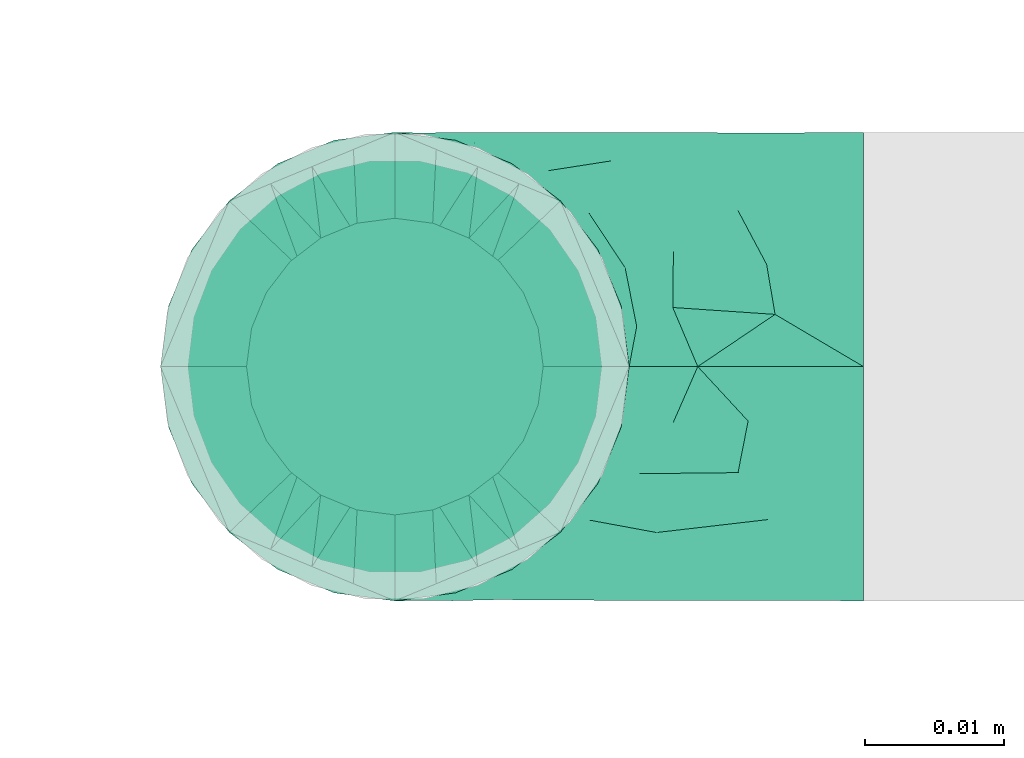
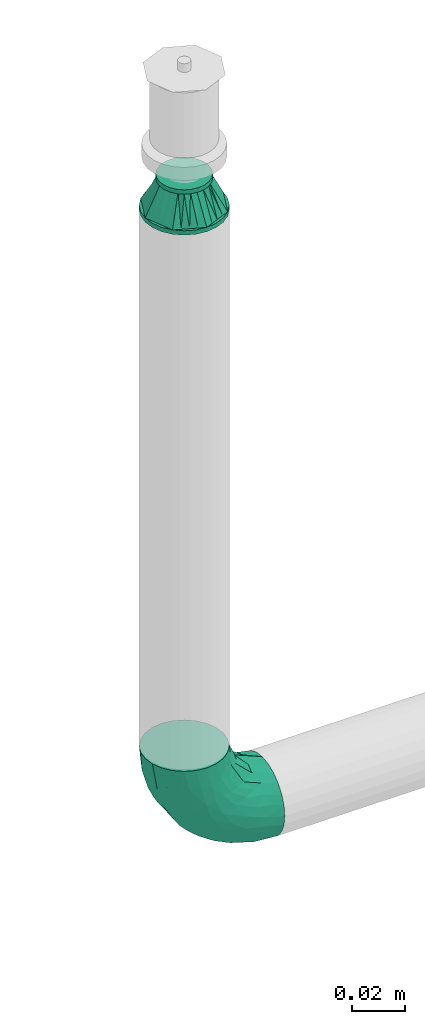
# One storey, part 95 of 157: 2 flow fittings.
"""IFC2X3 building model written with IfcOpenShell, lengths in millimetres."""

import ifcopenshell
import ifcopenshell.guid

model = None  # the IFC model being written
_history = None  # IfcOwnerHistory: only IFC2X3 demands one
_inside = {}  # id of a spatial element -> (the spatial element, [elements in it])
_under = {}  # id of a project, library or spatial element -> (it, [spatial elements below it])
_declared = {}  # id of a project -> (the project, [libraries it declares])
_typed = {}  # id of a type object -> (the type object, [elements of that type])
_made_of = {}  # id of a material, layer set ... -> (it, [elements and type objects made of it])


def new_model(schema):
    """Start an empty IFC model of exactly this schema.

    Asked for "IFC4X3", IfcOpenShell would pick the latest addendum, in which some entities
    have other attributes; the version numbers below select the first issue.
    IFC2X3 requires an IfcOwnerHistory on every rooted entity: one is made here for all.
    """
    global model, _history
    if schema == "IFC4X3":
        model = ifcopenshell.file(schema_version=(4, 3, 0, 0))
    else:
        model = ifcopenshell.file(schema=schema)
    _inside.clear()
    _under.clear()
    _declared.clear()
    _typed.clear()
    _made_of.clear()
    _history = None
    if model.schema == "IFC2X3":
        org = make("IfcOrganization", Name="unknown")
        user = make(
            "IfcPersonAndOrganization",
            ThePerson=make("IfcPerson", FamilyName="unknown"),
            TheOrganization=org,
        )
        app = make(
            "IfcApplication",
            ApplicationDeveloper=org,
            Version="unknown",
            ApplicationFullName="unknown",
            ApplicationIdentifier="unknown",
        )
        _history = make(
            "IfcOwnerHistory",
            OwningUser=user,
            OwningApplication=app,
            ChangeAction="ADDED",
            CreationDate=0,
        )
    return model


def make(cls, **values):
    """One entity of the class cls with the attributes given. An attribute that is None is left unset."""
    return model.create_entity(
        cls, **{name: value for name, value in values.items() if value is not None}
    )


def entity(cls, *values):
    """Any entity or typed value of the class cls, its attributes in the order of the schema. None: left unset."""
    e = model.create_entity(cls)
    for i, value in enumerate(values):
        if value is not None:
            e[i] = value
    return e


def rooted(cls, **values):
    """An entity with a GlobalId (a new one), such as an element, a storey or a relation."""
    return make(cls, GlobalId=ifcopenshell.guid.new(), OwnerHistory=_history, **values)


def si_unit(unit_type, name, prefix=None):
    """IfcSIUnit, for example si_unit("LENGTHUNIT", "METRE", prefix="MILLI")."""
    return make("IfcSIUnit", UnitType=unit_type, Prefix=prefix, Name=name)


def converted_unit(unit_type, name, factor, base, dimensions=None, offset=None):
    """IfcConversionBasedUnit, such as the inch: factor (a typed value) times the base unit."""
    return make(
        "IfcConversionBasedUnit"
        if offset is None
        else "IfcConversionBasedUnitWithOffset",
        ConversionOffset=offset,
        Dimensions=None
        if dimensions is None
        else entity("IfcDimensionalExponents", *dimensions),
        UnitType=unit_type,
        Name=name,
        ConversionFactor=make(
            "IfcMeasureWithUnit", ValueComponent=factor, UnitComponent=base
        ),
    )


def derived_unit(unit_type, elements):
    """IfcDerivedUnit: a product of units, each with its exponent."""
    return make(
        "IfcDerivedUnit",
        Elements=[
            make("IfcDerivedUnitElement", Unit=unit, Exponent=power)
            for unit, power in elements
        ],
        UnitType=unit_type,
    )


def assignment(units):
    """IfcUnitAssignment: the units of a project."""
    return None if units is None else make("IfcUnitAssignment", Units=units)


def point(xyz):
    """IfcCartesianPoint."""
    return None if xyz is None else make("IfcCartesianPoint", Coordinates=xyz)


def direction(xyz):
    """IfcDirection."""
    return None if xyz is None else make("IfcDirection", DirectionRatios=xyz)


def frame(location, z_axis=None, x_axis=None):
    """IfcAxis2Placement3D, a coordinate frame: its origin and axes. An axis left out is left unset."""
    return make(
        "IfcAxis2Placement3D",
        Location=point(location),
        Axis=direction(z_axis),
        RefDirection=direction(x_axis),
    )


def origin_with_axes():
    """The frame at (0, 0, 0) with the z axis (0, 0, 1) and the x axis (1, 0, 0) written out."""
    return frame((0.0, 0.0, 0.0), z_axis=(0.0, 0.0, 1.0), x_axis=(1.0, 0.0, 0.0))


def place(relative_to, where):
    """IfcLocalPlacement: puts the frame where relative to a parent placement (None: the world)."""
    return make(
        "IfcLocalPlacement", PlacementRelTo=relative_to, RelativePlacement=where
    )


def context(
    kind, dimensions, precision=None, world=None, true_north=None, identifier=None
):
    """IfcGeometricRepresentationContext, for example the 3D "Model" context."""
    return make(
        "IfcGeometricRepresentationContext",
        ContextIdentifier=identifier,
        ContextType=kind,
        CoordinateSpaceDimension=dimensions,
        Precision=precision,
        WorldCoordinateSystem=world,
        TrueNorth=true_north,
    )


def subcontext(parent, identifier, kind, view, scale=None):
    """IfcGeometricRepresentationSubContext, for example "Body" below "Model"."""
    return make(
        "IfcGeometricRepresentationSubContext",
        ContextIdentifier=identifier,
        ContextType=kind,
        ParentContext=parent,
        TargetScale=scale,
        TargetView=view,
    )


def project(units=None, contexts=None):
    """IfcProject with its units and contexts."""
    return rooted(
        "IfcProject",
        Name="project",
        RepresentationContexts=contexts,
        UnitsInContext=assignment(units),
    )


def spatial(cls, under=None, at=None, **own):
    """A site, building, storey or space (cls), placed at a placement, below another one or the project."""
    s = rooted(cls, ObjectPlacement=at, **own)
    if under is not None:
        _under.setdefault(under.id(), (under, []))[1].append(s)
    return s


def faces_of(points, faces, orient=None, outer=None):
    """IfcFace entities. A face is a list of loops; a loop is a list of indices into points, from 0.

    orient and outer hold one flag for each loop. By default every Orientation is true, the
    first loop of a face is its IfcFaceOuterBound and the others are IfcFaceBound.
    """
    made = []
    for i, loops in enumerate(faces):
        bounds = []
        for j, loop in enumerate(loops):
            is_outer = j == 0 if outer is None else outer[i][j]
            bounds.append(
                make(
                    "IfcFaceOuterBound" if is_outer else "IfcFaceBound",
                    Bound=make("IfcPolyLoop", Polygon=[points[k] for k in loop]),
                    Orientation=True if orient is None else orient[i][j],
                )
            )
        made.append(make("IfcFace", Bounds=bounds))
    return made


def open_shell(faces, orient=None, outer=None):
    """The faces of one IfcOpenShell. surface_model builds it on its shared points."""
    return ("IfcOpenShell", faces, orient, outer)


def surface_model(cls, points, shells):
    """IfcFaceBasedSurfaceModel or IfcShellBasedSurfaceModel (cls): surfaces that need not close."""
    shared = [point(p) for p in points]
    made = [make(c, CfsFaces=faces_of(shared, fs, o, b)) for c, fs, o, b in shells]
    if cls == "IfcFaceBasedSurfaceModel":
        return make(cls, FbsmFaces=made)
    return make(cls, SbsmBoundary=made)


def shape(context_of_items, identifier, shape_type, items):
    """IfcShapeRepresentation: the items that make up one representation, for example the "Body"."""
    return make(
        "IfcShapeRepresentation",
        ContextOfItems=context_of_items,
        RepresentationIdentifier=identifier,
        RepresentationType=shape_type,
        Items=items,
    )


def source(mapping_origin, context_of_items, identifier, shape_type, items):
    """IfcRepresentationMap: a shape defined once, which mapped items show again and again."""
    return make(
        "IfcRepresentationMap",
        MappingOrigin=mapping_origin,
        MappedRepresentation=shape(context_of_items, identifier, shape_type, items),
    )


def transform(
    local_origin,
    x_axis=None,
    y_axis=None,
    z_axis=None,
    scale=None,
    scale2=None,
    scale3=None,
    uniform=True,
):
    """IfcCartesianTransformationOperator3D, or its non-uniform kind. x_axis, y_axis, z_axis: its Axis1, 2, 3."""
    if uniform:
        return make(
            "IfcCartesianTransformationOperator3D",
            Axis1=direction(x_axis),
            Axis2=direction(y_axis),
            LocalOrigin=point(local_origin),
            Scale=scale,
            Axis3=direction(z_axis),
        )
    return make(
        "IfcCartesianTransformationOperator3DnonUniform",
        Axis1=direction(x_axis),
        Axis2=direction(y_axis),
        LocalOrigin=point(local_origin),
        Scale=scale,
        Axis3=direction(z_axis),
        Scale2=scale2,
        Scale3=scale3,
    )


def mapped(mapping_source, mapping_target):
    """IfcMappedItem: shows the shape of a source again, moved by a transform."""
    return make(
        "IfcMappedItem", MappingSource=mapping_source, MappingTarget=mapping_target
    )


def made_of(thing, what):
    """Note that an element or type object is made of a material, layer set ...; save() writes the relation."""
    if what is not None:
        _made_of.setdefault(what.id(), (what, []))[1].append(thing)
    return thing


def type_object(cls, material=None, **own):
    """A type object (cls), such as IfcWallType, which elements share."""
    return made_of(rooted(cls, **own), material)


def element(
    cls,
    number,
    at=None,
    inside=None,
    cuts=None,
    type_object=None,
    material=None,
    context=None,
    identifier="Body",
    shape_type=None,
    held_by="IfcProductDefinitionShape",
    body=None,
    shapes=None,
    **own,
):
    """One element of the class cls, such as IfcWall. Its Tag is "e" and its number.

    at: its placement. inside: the storey or other place that contains it. cuts: it is an
    opening in that element (IfcRelVoidsElement). A single representation is given by context,
    identifier, shape_type and body (its items); several are given by shapes. held_by: the class
    of the entity that holds the representations. save() writes the other relations.
    """
    e = rooted(cls, Tag="e%d" % number, ObjectPlacement=at, **own)
    if body is not None:
        shapes = [shape(context, identifier, shape_type, body)]
    if shapes is not None:
        e.Representation = make(held_by, Representations=shapes)
    if inside is not None:
        _inside.setdefault(inside.id(), (inside, []))[1].append(e)
    if cuts is not None:
        rooted(
            "IfcRelVoidsElement", RelatingBuildingElement=cuts, RelatedOpeningElement=e
        )
    if type_object is not None:
        _typed.setdefault(type_object.id(), (type_object, []))[1].append(e)
    return made_of(e, material)


def aggregate(whole, parts):
    """IfcRelAggregates: a whole, such as a stair, and the parts it consists of."""
    return rooted("IfcRelAggregates", RelatingObject=whole, RelatedObjects=parts)


def save(model, path):
    """Write the relations noted so far, then the file.

    IfcRelAggregates (storeys below a building ...), IfcRelContainedInSpatialStructure (elements
    in a storey), IfcRelDefinesByType, IfcRelAssociatesMaterial and IfcRelDeclares: one each for
    every whole, place, type object, material and project.
    """
    for whole, parts in _under.values():
        aggregate(whole, parts)
    for where, things in _inside.values():
        rooted(
            "IfcRelContainedInSpatialStructure",
            RelatedElements=things,
            RelatingStructure=where,
        )
    for kind, things in _typed.values():
        rooted("IfcRelDefinesByType", RelatedObjects=things, RelatingType=kind)
    for what, things in _made_of.values():
        rooted("IfcRelAssociatesMaterial", RelatedObjects=things, RelatingMaterial=what)
    for by, libraries in _declared.values():
        rooted("IfcRelDeclares", RelatingContext=by, RelatedDefinitions=libraries)
    model.write(path)


model = new_model("IFC2X3")

# Units and contexts
model_context = context("Model", 3, precision=0.01, world=frame((0.0, 4.29681676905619e-09, 0.0)), true_north=direction((4.01073788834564e-13, 1.0)))
plan_context = context("Plan", 3, precision=0.01, world=frame((0.0, 4.29681676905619e-09, 0.0)), true_north=direction((4.01073788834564e-13, 1.0)))
body_context = subcontext(model_context, "Body", "Model", "MODEL_VIEW")
ifc_project = project(units=[converted_unit("PLANEANGLEUNIT", "DEGREE", entity("IfcPositiveLengthMeasure", 0.0174532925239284), si_unit("PLANEANGLEUNIT", "RADIAN"), dimensions=[0, 0, 0, 0, 0, 0, 0]), si_unit("AREAUNIT", "SQUARE_METRE"), si_unit("LENGTHUNIT", "METRE", prefix="MILLI"), si_unit("MASSUNIT", "GRAM", prefix="KILO"), si_unit("POWERUNIT", "WATT"), si_unit("PRESSUREUNIT", "PASCAL"), si_unit("FORCEUNIT", "NEWTON", prefix="KILO"), si_unit("ELECTRICCURRENTUNIT", "AMPERE"), si_unit("THERMODYNAMICTEMPERATUREUNIT", "DEGREE_CELSIUS"), si_unit("TIMEUNIT", "SECOND"), si_unit("VOLUMEUNIT", "CUBIC_METRE"), derived_unit("LINEARVELOCITYUNIT", [(si_unit("LENGTHUNIT", "METRE"), 1), (si_unit("TIMEUNIT", "SECOND"), -1)]), derived_unit("VOLUMETRICFLOWRATEUNIT", [(si_unit("VOLUMEUNIT", "CUBIC_METRE"), 1), (si_unit("TIMEUNIT", "SECOND"), -1)]), derived_unit("THERMALTRANSMITTANCEUNIT", [(si_unit("POWERUNIT", "WATT"), 1), (si_unit("THERMODYNAMICTEMPERATUREUNIT", "KELVIN"), -1), (si_unit("AREAUNIT", "SQUARE_METRE"), -1)])], contexts=[model_context, plan_context])

# Site, building, storey
site_placement = place(None, frame((0.0, -4.29681676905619e-09, 0.0), z_axis=(0.0, 0.0, 1.0), x_axis=(1.0, 0.0, 0.0)))
site = spatial("IfcSite", under=ifc_project, at=site_placement, CompositionType="ELEMENT")
building_placement = place(site_placement, frame((0.0, 4.29681676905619e-09, 0.0), z_axis=(0.0, 0.0, 1.0), x_axis=(1.0, 0.0, 0.0)))
building = spatial("IfcBuilding", under=site, at=building_placement, Name="mc-building", CompositionType="ELEMENT")
storey_placement = place(building_placement, frame((0.0, 0.0, 204000.0), z_axis=(0.0, 0.0, 1.0), x_axis=(1.0, 0.0, 0.0)))
storey = spatial("IfcBuildingStorey", under=building, at=storey_placement, Name="Nivå D", CompositionType="ELEMENT", Elevation=204000.0)

# Flow fittings
pipe_fitting_type_1 = type_object("IfcPipeFittingType", Name="magi_pipe_fe_reducer_centric_short_NOR", PredefinedType="TRANSITION")
shared_shape_1 = source(origin_with_axes(), body_context, "Body", "SurfaceModel", [
    surface_model("IfcShellBasedSurfaceModel", [(14.4, 5.35, -9.26647), (14.4, 0.0, -10.7), (14.4, 2.76936, -10.33541), (14.4, 10.33541, -2.76936), (14.4, 7.56604, -7.56604), (14.4, -10.33541, -2.76936), (14.4, 9.26647, -5.35), (14.4, 0.0, 10.7), (14.4, -5.35, -9.26647), (14.4, -2.76936, -10.33541), (14.4, -7.56604, -7.56604), (14.4, -9.26647, -5.35), (14.4, 10.7, 0.0), (14.4, 10.33541, 2.76936), (14.4, 9.26647, 5.35), (14.4, 7.56604, 7.56604), (14.4, 2.76936, 10.33541), (14.4, 5.35, 9.26647), (14.4, -10.33541, 2.76936), (14.4, -7.56604, 7.56604), (14.4, -9.26647, 5.35), (14.4, -10.7, 0.0), (14.4, -2.76936, 10.33541), (14.4, -5.35, 9.26647), (12.4, 2.76936, 10.33541), (12.4, -10.33541, -2.76936), (12.4, 0.0, 10.7), (12.4, 5.35, 9.26647), (12.4, 7.56604, 7.56604), (12.4, 9.26647, 5.35), (12.4, 10.33541, 2.76936), (12.4, -10.33541, 2.76936), (12.4, -2.76936, 10.33541), (12.4, -7.56604, 7.56604), (12.4, -5.35, 9.26647), (12.4, -9.26647, 5.35), (12.4, -10.7, 0.0), (12.4, 10.33541, -2.76936), (12.4, 5.35, -9.26647), (12.4, 9.26647, -5.35), (12.4, 7.56604, -7.56604), (12.4, 2.76936, -10.33541), (12.4, -9.26647, -5.35), (12.4, -5.35, -9.26647), (12.4, -7.56604, -7.56604), (12.4, 0.0, -10.7), (12.4, -2.76936, -10.33541), (12.4, 10.7, 0.0), (-2.0, 11.9501, 11.9501), (-2.0, 0.0, 16.9), (-2.0, 4.37404, 16.32415), (-2.0, 8.45, 14.63583), (-2.0, 14.63583, 8.45), (-2.0, 16.32415, 4.37404), (-2.0, -16.32415, 4.37404), (-2.0, -8.45, 14.63583), (-2.0, -14.63583, 8.45), (-2.0, -11.9501, 11.9501), (-2.0, -4.37404, 16.32415), (-2.0, -16.32415, -4.37404), (-2.0, -16.9, 0.0), (-2.0, -8.45, -14.63583), (-2.0, 16.32415, -4.37404), (-2.0, 11.9501, -11.9501), (-2.0, 14.63583, -8.45), (-2.0, 8.45, -14.63583), (-2.0, 4.37404, -16.32415), (-2.0, 0.0, -16.9), (-2.0, -11.9501, -11.9501), (-2.0, -14.63583, -8.45), (-2.0, -4.37404, -16.32415), (-2.0, 16.9, 0.0), (0.0, 4.37404, -16.32415), (0.0, 8.45, -14.63583), (0.0, 11.9501, -11.9501), (0.0, 0.0, -16.9), (0.0, 16.32415, -4.37404), (0.0, 16.32415, 4.37404), (0.0, 14.63583, -8.45), (0.0, -8.45, -14.63583), (0.0, -4.37404, -16.32415), (0.0, -11.9501, -11.9501), (0.0, -16.32415, -4.37404), (0.0, -14.63583, -8.45), (0.0, -16.32415, 4.37404), (0.0, 16.9, 0.0), (0.0, 14.63583, 8.45), (0.0, 11.9501, 11.9501), (0.0, 4.37404, 16.32415), (0.0, 8.45, 14.63583), (0.0, 0.0, 16.9), (0.0, -14.63583, 8.45), (0.0, -16.9, 0.0), (0.0, -8.45, 14.63583), (0.0, -11.9501, 11.9501), (0.0, -4.37404, 16.32415), (12.4, 9.3625, -2.31662), (0.0, 14.42505, -5.97505), (0.0, 15.66253, -2.98753), (12.4, -6.6875, -6.94985), (0.0, -13.18758, -8.96258), (0.0, 2.98753, -15.66253), (12.4, 0.0, -9.26647), (12.4, 6.6875, -6.94985), (0.0, 8.96258, -13.18758), (12.4, -9.3625, -2.31662), (0.0, -15.66253, -2.98753), (0.0, -14.42505, -5.97505), (0.0, 5.97505, -14.42505), (0.0, -2.98753, -15.66253), (0.0, -8.96258, -13.18758), (0.0, 13.18758, -8.96258), (12.4, 8.025, -4.63324), (12.4, -2.675, -9.26647), (12.4, 2.675, -9.26647), (0.0, -5.97505, -14.42505), (12.4, -8.025, -4.63324), (12.4, -9.3625, 2.31662), (0.0, -14.42505, 5.97505), (0.0, -15.66253, 2.98753), (12.4, 6.6875, 6.94985), (0.0, 13.18758, 8.96258), (0.0, -2.98753, 15.66253), (12.4, 0.0, 9.26647), (12.4, -6.6875, 6.94985), (0.0, -8.96258, 13.18758), (12.4, 9.3625, 2.31662), (0.0, 15.66253, 2.98753), (0.0, 14.42505, 5.97505), (0.0, -5.97505, 14.42505), (0.0, 2.98753, 15.66253), (0.0, 8.96258, 13.18758), (0.0, -13.18758, 8.96258), (12.4, -8.025, 4.63324), (12.4, 2.675, 9.26647), (12.4, -2.675, 9.26647), (0.0, 5.97505, 14.42505), (12.4, 8.025, 4.63324)], [open_shell([[[0, 1, 2]], [[3, 0, 4]], [[5, 0, 3]], [[3, 4, 6]], [[7, 5, 3]], [[1, 8, 9]], [[1, 0, 8]], [[10, 5, 11]], [[5, 10, 8]], [[0, 5, 8]], [[3, 12, 13]], [[13, 14, 15]], [[13, 15, 16]], [[7, 3, 16]], [[16, 15, 17]], [[7, 18, 5]], [[18, 19, 20]], [[21, 5, 18]], [[19, 22, 23]], [[22, 19, 18]], [[7, 22, 18]], [[13, 16, 3]], [[24, 25, 26]], [[27, 25, 24]], [[28, 29, 30]], [[28, 25, 27]], [[31, 26, 25]], [[32, 33, 34]], [[33, 32, 31]], [[33, 31, 35]], [[32, 26, 31]], [[31, 25, 36]], [[30, 37, 28]], [[25, 28, 37]], [[38, 37, 39]], [[37, 38, 25]], [[38, 39, 40]], [[41, 25, 38]], [[42, 43, 44]], [[43, 42, 25]], [[43, 45, 46]], [[43, 25, 41]], [[41, 45, 43]], [[37, 30, 47]], [[25, 5, 36]], [[42, 11, 25]], [[8, 44, 43]], [[42, 44, 10]], [[9, 43, 46]], [[25, 11, 5]], [[5, 21, 36]], [[9, 8, 43]], [[10, 44, 8]], [[10, 11, 42]], [[1, 9, 46]], [[46, 45, 1]], [[41, 2, 45]], [[38, 0, 41]], [[6, 40, 39]], [[38, 40, 4]], [[3, 39, 37]], [[38, 4, 0]], [[0, 2, 41]], [[12, 3, 37]], [[6, 39, 3]], [[6, 4, 40]], [[47, 12, 37]], [[45, 2, 1]], [[30, 13, 47]], [[29, 14, 30]], [[17, 28, 27]], [[29, 28, 15]], [[16, 27, 24]], [[30, 14, 13]], [[13, 12, 47]], [[16, 17, 27]], [[15, 28, 17]], [[15, 14, 29]], [[7, 16, 24]], [[24, 26, 7]], [[32, 22, 26]], [[34, 23, 32]], [[20, 33, 35]], [[34, 33, 19]], [[18, 35, 31]], [[34, 19, 23]], [[23, 22, 32]], [[21, 18, 31]], [[20, 35, 18]], [[20, 19, 33]], [[36, 21, 31]], [[26, 22, 7]], [[48, 49, 50]], [[48, 50, 51]], [[48, 52, 53]], [[48, 53, 49]], [[49, 53, 54]], [[55, 56, 57]], [[55, 58, 49]], [[56, 55, 49]], [[49, 54, 56]], [[54, 59, 60]], [[54, 53, 61]], [[53, 62, 63]], [[63, 62, 64]], [[63, 65, 66]], [[61, 53, 63]], [[67, 63, 66]], [[59, 68, 69]], [[68, 59, 61]], [[61, 67, 70]], [[59, 54, 61]], [[63, 67, 61]], [[53, 71, 62]], [[72, 73, 74]], [[75, 72, 74]], [[74, 76, 77]], [[76, 74, 78]], [[74, 77, 79]], [[75, 79, 80]], [[75, 74, 79]], [[81, 82, 83]], [[82, 81, 79]], [[79, 84, 82]], [[77, 76, 85]], [[77, 86, 87]], [[77, 87, 88]], [[88, 84, 79]], [[88, 87, 89]], [[84, 88, 90]], [[90, 91, 84]], [[92, 82, 84]], [[91, 93, 94]], [[91, 90, 93]], [[93, 90, 95]], [[79, 77, 88]], [[59, 82, 60]], [[69, 83, 59]], [[79, 68, 61]], [[69, 68, 81]], [[80, 61, 70]], [[59, 83, 82]], [[82, 92, 60]], [[80, 79, 61]], [[81, 68, 79]], [[81, 83, 69]], [[75, 80, 70]], [[70, 67, 75]], [[66, 72, 67]], [[65, 73, 66]], [[78, 63, 64]], [[65, 63, 74]], [[76, 64, 62]], [[65, 74, 73]], [[73, 72, 66]], [[85, 76, 62]], [[78, 64, 76]], [[78, 74, 63]], [[71, 85, 62]], [[67, 72, 75]], [[53, 77, 71]], [[52, 86, 53]], [[89, 48, 51]], [[52, 48, 87]], [[88, 51, 50]], [[53, 86, 77]], [[77, 85, 71]], [[88, 89, 51]], [[87, 48, 89]], [[87, 86, 52]], [[90, 88, 50]], [[50, 49, 90]], [[58, 95, 49]], [[55, 93, 58]], [[91, 57, 56]], [[55, 57, 94]], [[84, 56, 54]], [[55, 94, 93]], [[93, 95, 58]], [[92, 84, 54]], [[91, 56, 84]], [[91, 94, 57]], [[60, 92, 54]], [[49, 95, 90]], [[27, 34, 47]], [[47, 34, 43]], [[43, 38, 47]], [[43, 34, 36]], [[90, 87, 94]], [[92, 94, 87]], [[87, 74, 92]], [[75, 92, 74]], [[81, 92, 75]], [[74, 87, 85]], [[96, 97, 98]], [[81, 99, 100]], [[101, 102, 75]], [[98, 85, 47]], [[74, 103, 104]], [[104, 103, 38]], [[105, 106, 107]], [[38, 108, 104]], [[102, 109, 75]], [[110, 99, 81]], [[47, 96, 98]], [[103, 111, 112]], [[109, 102, 113]], [[36, 92, 106]], [[102, 101, 114]], [[110, 115, 43]], [[96, 112, 97]], [[107, 116, 105]], [[36, 106, 105]], [[113, 115, 109]], [[43, 115, 113]], [[116, 107, 100]], [[108, 38, 114]], [[111, 103, 74]], [[111, 97, 112]], [[99, 110, 43]], [[116, 100, 99]], [[101, 108, 114]], [[117, 118, 119]], [[87, 120, 121]], [[122, 123, 90]], [[119, 92, 36]], [[94, 124, 125]], [[125, 124, 34]], [[126, 127, 128]], [[34, 129, 125]], [[123, 130, 90]], [[131, 120, 87]], [[36, 117, 119]], [[124, 132, 133]], [[130, 123, 134]], [[47, 85, 127]], [[123, 122, 135]], [[131, 136, 27]], [[117, 133, 118]], [[128, 137, 126]], [[47, 127, 126]], [[134, 136, 130]], [[27, 136, 134]], [[137, 128, 121]], [[129, 34, 135]], [[132, 124, 94]], [[132, 118, 133]], [[120, 131, 27]], [[137, 121, 120]], [[122, 129, 135]]])]),
])
flow_fitting_1_placement = place(storey_placement, frame((527240.35, 410800.0, 3161.14799999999), z_axis=(0.0, -1.0, 0.0), x_axis=(0.0, 0.0, 1.0)))
element("IfcFlowFitting", 1, at=flow_fitting_1_placement, inside=storey, type_object=pipe_fitting_type_1, Name="magi_pipe_fe_reducer_centric_short_NOR", context=body_context, shape_type="MappedRepresentation", body=[
    mapped(shared_shape_1, transform((0.0, 0.0, 0.0), scale=1.0)),
])
pipe_fitting_type_2 = type_object("IfcPipeFittingType", Name="magi_pipe_fe_elbow_short_001", PredefinedType="BEND")
shared_shape_2 = source(origin_with_axes(), body_context, "Body", "SurfaceModel", [
    surface_model("IfcShellBasedSurfaceModel", [(-33.8, 8.45, -14.63583), (-33.8, 4.37404, -16.32415), (-33.8, 11.9501, -11.9501), (-33.8, -11.9501, -11.9501), (-33.8, -14.63583, -8.45), (-33.8, -8.45, -14.63583), (-33.8, 0.0, -16.9), (-33.8, -4.37404, -16.32415), (-33.8, -4.37404, 16.32415), (-33.8, 0.0, 16.9), (-33.8, -8.45, 14.63583), (-33.8, 16.32415, -4.37404), (-33.8, 14.63583, -8.45), (-33.8, -16.32415, -4.37404), (-33.8, -16.9, 0.0), (-33.8, -16.32415, 4.37404), (-33.8, 11.9501, 11.9501), (-33.8, 14.63583, 8.45), (-33.8, 16.32415, 4.37404), (-33.8, 4.37404, 16.32415), (-33.8, 8.45, 14.63583), (-33.8, -14.63583, 8.45), (-33.8, -11.9501, 11.9501), (-33.8, 16.9, 0.0), (-11.9501, 33.8, -11.9501), (0.0, 33.8, -16.9), (-4.37404, 33.8, -16.32415), (-8.45, 33.8, -14.63583), (-14.63583, 33.8, -8.45), (-16.32415, 33.8, -4.37404), (14.63583, 33.8, -8.45), (8.45, 33.8, 14.63583), (16.32415, 33.8, -4.37404), (8.45, 33.8, -14.63583), (11.9501, 33.8, -11.9501), (4.37404, 33.8, -16.32415), (16.32415, 33.8, 4.37404), (16.9, 33.8, 0.0), (-11.9501, 33.8, 11.9501), (-16.32415, 33.8, 4.37404), (-14.63583, 33.8, 8.45), (-8.45, 33.8, 14.63583), (-4.37404, 33.8, 16.32415), (11.9501, 33.8, 11.9501), (14.63583, 33.8, 8.45), (0.0, 33.8, 16.9), (4.37404, 33.8, 16.32415), (-16.9, 33.8, 0.0), (-24.79389, -13.12945, 9.48721), (-22.19287, -9.75018, 12.59315), (-24.09897, -14.97035, 0.0), (-14.93934, -10.76256, 8.5297), (-22.46095, -14.75051, 5.27077), (14.75051, 22.46094, 5.27077), (11.9251, 13.23888, 4.33236), (13.04069, 14.39795, 0.0), (7.71387, 13.68847, 11.55891), (9.75018, 22.19287, 12.59315), (4.10169, 13.0571, 14.04018), (-24.84007, -6.39063, 15.2048), (-25.81779, -2.23879, 16.61097), (-23.66549, 2.59054, 16.87119), (-26.50418, 14.06512, 11.08152), (-24.21253, 17.66365, 7.72657), (-29.58514, 15.86957, 7.00283), (-6.17382, -7.5455, 0.0), (-13.23888, -11.9251, 4.33236), (-14.39795, -13.04069, 0.0), (-17.81434, 18.87373, 11.97104), (-6.30846, 29.15138, 15.82987), (-2.31622, 25.28002, 16.85849), (-29.23923, 10.23435, 13.77053), (-1.45439, -2.85688, 7.61475), (-0.28326, 0.34872, 10.09509), (-5.74484, -4.04709, 10.4122), (-4.41137, 11.31918, 16.59407), (-8.39727, 3.10034, 15.7812), (-1.72649, 9.1306, 15.53089), (-17.39909, 24.75344, 7.64977), (-26.19233, 20.0512, 0.0), (-28.14518, 17.29657, 4.25857), (-26.05147, 6.6281, 15.96447), (-5.87354, 16.61944, 16.86968), (-12.51807, 12.51807, 16.48937), (-10.06312, 7.38516, 16.81295), (-3.01882, 3.01882, 13.81718), (-13.0571, -4.10169, 14.04018), (-16.82553, -0.15166, 16.38038), (10.76256, 14.93934, 8.5297), (13.12945, 24.79389, 9.48721), (6.39063, 24.84007, 15.2048), (2.23879, 25.81779, 16.61097), (-13.68847, -7.71387, 11.55891), (14.97035, 24.09897, 0.0), (-7.30894, 22.89991, 16.09489), (-10.67958, 26.17414, 14.008), (-12.78295, 18.26924, 15.06066), (-13.88562, 22.45231, 12.93244), (-18.04944, 15.16501, 14.04434), (-23.11658, 20.08178, 4.02986), (-21.84989, 21.84989, 0.0), (-18.55817, 25.48277, 3.93065), (-13.95142, 26.94732, 11.03289), (-18.57098, 7.23906, 16.59756), (-16.58335, 4.14122, 16.89279), (-17.96666, 11.46709, 15.63151), (-9.84453, 17.54304, 16.18938), (0.15166, 16.82553, 16.38038), (-23.27207, 11.47201, 14.23154), (3.84842, 5.86994, 10.70473), (-8.0212, -7.54413, 7.93275), (1.00345, -2.19508, 4.57414), (5.13203, 3.01004, 5.90201), (5.24161, 1.7543, 2.53265), (8.70457, 7.04947, 3.99182), (-20.0512, 26.19233, 0.0), (8.4852, 8.76699, 7.09296), (-4.55488, -6.72064, 4.90681), (2.05031, -2.05031, 0.0), (7.5455, 6.17382, 0.0), (-26.75399, 2.1369, -16.845), (-14.61995, 24.73803, -11.27736), (-28.45274, -13.45335, -9.81895), (-26.00469, 6.63555, -15.96645), (-23.06726, 20.04573, -4.26202), (-13.80647, -4.26506, -14.17873), (-14.67501, -0.21081, -16.07388), (-6.7902, -0.2828, -13.8478), (-24.53586, 11.08096, -14.13417), (-26.72048, 14.00837, -11.05776), (10.0967, 24.44989, -12.75976), (5.83237, 21.40218, -15.03047), (6.66249, 28.54238, -15.38093), (-20.38182, 15.48705, -12.74596), (12.53268, 21.23441, -9.15363), (12.54494, 15.67504, -5.54878), (9.7522, 12.89279, -8.66343), (-15.65186, 19.64213, -13.01327), (-12.03528, 20.66498, -14.67665), (-15.61907, 15.61906, -14.83879), (-25.56551, -15.26206, 0.0), (-24.65452, -15.12934, -5.50955), (13.45335, 28.45274, -9.81895), (15.12934, 24.65452, -5.50955), (-7.35442, -8.31014, -5.65563), (-15.67504, -12.54494, -5.54878), (-24.44989, -10.0967, -12.75976), (0.16522, 0.41303, -9.71728), (-5.70658, -5.33066, -8.89288), (-5.13869, -2.37198, -11.53565), (-21.23441, -12.53268, -9.15363), (0.71146, 7.93863, -14.09382), (0.21081, 14.67501, -16.07388), (3.49291, 14.42772, -14.76381), (-24.89911, -2.13088, -16.591), (-28.54238, -6.66249, -15.38093), (-18.44386, -7.71663, -13.26957), (2.13088, 24.89911, -16.591), (-28.64342, 17.44413, -2.89318), (1.70017, -1.28722, -5.09504), (-16.57067, 26.81947, -7.36596), (-17.69055, 27.4263, -3.76405), (-12.89279, -9.7522, -8.66343), (-5.96611, 5.96611, -15.95814), (-20.53709, 20.09345, -8.28985), (-2.1369, 26.75399, -16.845), (-6.89872, 24.58781, -16.02578), (-10.60739, 26.53157, -13.98044), (-21.40218, -5.83237, -15.03047), (2.93192, 5.89627, -11.55917), (6.89393, 12.61842, -11.82233), (5.58056, 5.95325, -8.79455), (-3.99512, 18.61798, -16.89635), (8.31014, 7.35442, -5.65563), (-9.1383, 9.86148, -16.89041), (-9.99983, 16.02119, -16.39699), (-16.68576, 9.78031, -16.34199), (-27.01915, 16.61158, -7.12979), (15.26206, 25.56551, 0.0), (-18.61798, 3.99512, -16.89635), (-19.37495, 27.82495, 0.0), (-12.61842, -6.89393, -11.82233), (-18.84705, 19.14018, -10.96545)], [open_shell([[[0, 1, 2]], [[3, 4, 5]], [[6, 7, 5]], [[8, 9, 10]], [[1, 6, 2]], [[11, 12, 2]], [[4, 2, 6]], [[2, 13, 10]], [[5, 4, 6]], [[2, 4, 13]], [[14, 15, 13]], [[11, 2, 16]], [[11, 17, 18]], [[11, 16, 17]], [[19, 20, 16]], [[16, 2, 10]], [[19, 16, 10]], [[21, 22, 15]], [[22, 13, 15]], [[22, 10, 13]], [[10, 9, 19]], [[11, 18, 23]], [[24, 25, 26]], [[24, 26, 27]], [[24, 28, 29]], [[25, 24, 30]], [[31, 32, 24]], [[33, 30, 34]], [[33, 35, 25]], [[25, 30, 33]], [[32, 30, 24]], [[32, 36, 37]], [[38, 24, 29]], [[39, 40, 29]], [[40, 38, 29]], [[38, 41, 42]], [[38, 31, 24]], [[31, 38, 42]], [[36, 43, 44]], [[36, 32, 43]], [[31, 45, 46]], [[32, 31, 43]], [[42, 45, 31]], [[39, 29, 47]], [[22, 48, 49]], [[15, 14, 50]], [[51, 48, 52]], [[53, 54, 55]], [[48, 22, 21]], [[15, 52, 21]], [[56, 57, 58]], [[49, 10, 22]], [[49, 59, 10]], [[9, 60, 61]], [[62, 63, 64]], [[65, 66, 67]], [[57, 43, 31]], [[62, 68, 63]], [[42, 69, 70]], [[20, 71, 16]], [[8, 60, 9]], [[72, 73, 74]], [[75, 76, 77]], [[16, 62, 17]], [[40, 39, 78]], [[79, 23, 80]], [[64, 18, 17]], [[9, 61, 19]], [[19, 81, 20]], [[82, 83, 84]], [[74, 85, 86]], [[59, 86, 87]], [[88, 89, 57]], [[90, 31, 46]], [[44, 53, 36]], [[46, 45, 91]], [[54, 53, 88]], [[44, 89, 53]], [[92, 86, 49]], [[89, 44, 43]], [[10, 59, 8]], [[53, 55, 93]], [[93, 36, 53]], [[66, 52, 67]], [[94, 82, 70]], [[95, 96, 94]], [[97, 98, 96]], [[79, 99, 100]], [[41, 38, 95]], [[101, 100, 99]], [[68, 78, 63]], [[42, 41, 69]], [[23, 18, 80]], [[95, 94, 69]], [[78, 101, 99]], [[38, 102, 95]], [[70, 45, 42]], [[97, 95, 102]], [[15, 50, 52]], [[90, 57, 31]], [[57, 90, 58]], [[81, 19, 61]], [[103, 104, 84]], [[105, 81, 103]], [[38, 40, 102]], [[106, 96, 83]], [[94, 106, 82]], [[91, 70, 107]], [[71, 62, 16]], [[62, 108, 98]], [[86, 59, 49]], [[67, 52, 50]], [[60, 59, 87]], [[92, 49, 51]], [[86, 85, 76]], [[91, 90, 46]], [[37, 36, 93]], [[107, 77, 58]], [[107, 58, 90]], [[58, 85, 109]], [[110, 74, 92]], [[72, 74, 110]], [[66, 51, 52]], [[72, 111, 112]], [[113, 114, 112]], [[56, 88, 57]], [[52, 48, 21]], [[49, 48, 51]], [[57, 89, 43]], [[53, 89, 88]], [[103, 81, 61]], [[71, 81, 108]], [[18, 64, 80]], [[63, 78, 99]], [[47, 115, 101]], [[101, 115, 100]], [[40, 78, 102]], [[68, 102, 78]], [[97, 96, 95]], [[105, 98, 108]], [[103, 84, 83]], [[107, 70, 82]], [[76, 84, 87]], [[82, 84, 75]], [[70, 91, 45]], [[90, 91, 107]], [[59, 60, 8]], [[61, 60, 87]], [[73, 85, 74]], [[109, 112, 116]], [[103, 61, 104]], [[105, 103, 83]], [[96, 105, 83]], [[81, 105, 108]], [[96, 98, 105]], [[62, 98, 68]], [[61, 87, 104]], [[87, 84, 104]], [[86, 76, 87]], [[77, 76, 85]], [[58, 77, 85]], [[75, 77, 107]], [[82, 75, 107]], [[76, 75, 84]], [[81, 71, 20]], [[62, 71, 108]], [[95, 69, 41]], [[70, 69, 94]], [[62, 64, 17]], [[80, 63, 99]], [[63, 80, 64]], [[80, 99, 79]], [[66, 65, 117]], [[110, 66, 117]], [[112, 114, 116]], [[118, 117, 65]], [[110, 92, 51]], [[112, 111, 113]], [[119, 55, 54]], [[74, 86, 92]], [[58, 109, 56]], [[116, 56, 109]], [[66, 110, 51]], [[72, 110, 117]], [[111, 72, 117]], [[73, 112, 109]], [[117, 118, 111]], [[113, 111, 118]], [[118, 119, 113]], [[114, 119, 54]], [[119, 114, 113]], [[116, 54, 88]], [[54, 116, 114]], [[116, 88, 56]], [[112, 73, 72]], [[85, 73, 109]], [[78, 39, 101]], [[47, 101, 39]], [[102, 68, 97]], [[97, 68, 98]], [[82, 106, 83]], [[94, 96, 106]], [[1, 120, 6]], [[28, 24, 121]], [[3, 122, 4]], [[0, 123, 1]], [[100, 124, 79]], [[125, 126, 127]], [[128, 2, 129]], [[130, 131, 132]], [[128, 129, 133]], [[134, 135, 136]], [[137, 138, 139]], [[128, 0, 2]], [[67, 140, 141]], [[134, 142, 143]], [[141, 13, 4]], [[144, 65, 145]], [[146, 3, 5]], [[147, 148, 149]], [[145, 141, 150]], [[151, 152, 153]], [[154, 7, 6]], [[5, 155, 146]], [[150, 146, 156]], [[155, 5, 7]], [[143, 135, 134]], [[35, 157, 25]], [[23, 79, 158]], [[148, 159, 144]], [[160, 161, 29]], [[145, 162, 144]], [[163, 152, 151]], [[29, 28, 160]], [[121, 164, 160]], [[33, 34, 130]], [[25, 165, 26]], [[26, 165, 166]], [[142, 34, 30]], [[24, 27, 167]], [[124, 161, 164]], [[157, 35, 132]], [[155, 154, 168]], [[123, 0, 128]], [[169, 170, 171]], [[172, 157, 152]], [[26, 166, 27]], [[132, 35, 33]], [[142, 130, 34]], [[168, 154, 126]], [[136, 135, 173]], [[133, 137, 139]], [[2, 12, 129]], [[170, 131, 130]], [[30, 32, 143]], [[172, 174, 175]], [[176, 123, 128]], [[158, 177, 11]], [[135, 55, 119]], [[167, 27, 166]], [[175, 166, 172]], [[137, 167, 138]], [[122, 141, 4]], [[140, 14, 13]], [[32, 37, 178]], [[170, 130, 134]], [[152, 157, 131]], [[165, 157, 172]], [[153, 170, 151]], [[152, 163, 174]], [[168, 125, 156]], [[122, 146, 150]], [[120, 154, 6]], [[179, 174, 126]], [[179, 126, 154]], [[126, 163, 127]], [[162, 145, 150]], [[140, 13, 141]], [[32, 178, 143]], [[55, 143, 178]], [[177, 129, 12]], [[128, 133, 139]], [[176, 128, 139]], [[120, 123, 179]], [[121, 160, 28]], [[161, 100, 180]], [[166, 175, 138]], [[121, 24, 167]], [[161, 47, 29]], [[79, 124, 158]], [[124, 164, 177]], [[161, 124, 100]], [[136, 171, 170]], [[127, 163, 151]], [[147, 171, 159]], [[148, 144, 162]], [[127, 151, 169]], [[127, 181, 125]], [[129, 177, 164]], [[12, 11, 177]], [[159, 65, 144]], [[67, 141, 145]], [[143, 55, 135]], [[135, 119, 173]], [[123, 120, 1]], [[154, 120, 179]], [[157, 165, 25]], [[166, 165, 172]], [[172, 152, 174]], [[176, 139, 175]], [[126, 174, 163]], [[176, 174, 179]], [[174, 176, 175]], [[123, 176, 179]], [[150, 181, 162]], [[127, 149, 181]], [[181, 148, 162]], [[159, 148, 147]], [[171, 136, 173]], [[170, 134, 136]], [[159, 171, 173]], [[171, 147, 169]], [[169, 147, 149]], [[151, 170, 169]], [[164, 182, 129]], [[182, 121, 137]], [[181, 149, 148]], [[169, 149, 127]], [[182, 137, 133]], [[167, 137, 121]], [[166, 138, 167]], [[175, 139, 138]], [[129, 182, 133]], [[121, 182, 164]], [[161, 160, 164]], [[47, 161, 180]], [[177, 158, 124]], [[23, 158, 11]], [[130, 132, 33]], [[157, 132, 131]], [[143, 142, 30]], [[130, 142, 134]], [[154, 155, 7]], [[146, 155, 168]], [[146, 122, 3]], [[141, 122, 150]], [[152, 131, 153]], [[159, 119, 118]], [[67, 145, 65]], [[170, 153, 131]], [[119, 159, 173]], [[159, 118, 65]], [[156, 125, 181]], [[126, 125, 168]], [[150, 156, 181]], [[168, 156, 146]]])]),
])
flow_fitting_2_placement = place(storey_placement, frame((527240.35, 410800.00002, 2880.0), z_axis=(0.0, -1.0, 0.0), x_axis=(0.0, 0.0, -1.0)))
element("IfcFlowFitting", 2, at=flow_fitting_2_placement, inside=storey, type_object=pipe_fitting_type_2, Name="magi_pipe_fe_elbow_short_001", context=body_context, shape_type="MappedRepresentation", body=[
    mapped(shared_shape_2, transform((0.0, 0.0, 0.0), scale=1.0)),
])

save(model, "model.ifc")
